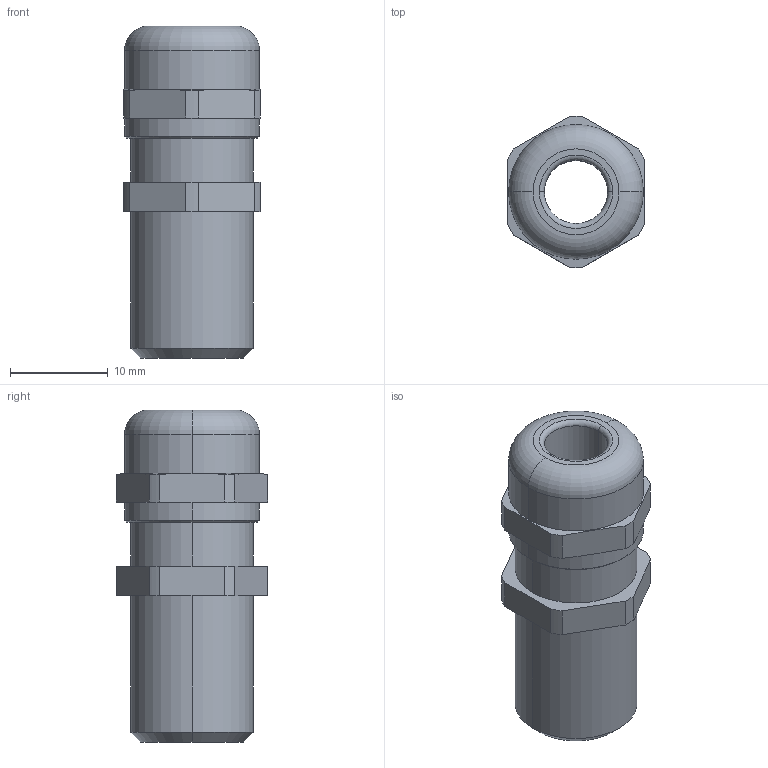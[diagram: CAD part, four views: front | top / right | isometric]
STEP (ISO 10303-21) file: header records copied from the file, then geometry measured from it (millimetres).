
FILE_DESCRIPTION (( 'STEP AP203' ), '1' );
FILE_NAME ('50.007-15MM.STEP', '2005-11-22T08:31:24', ( ' ' ), ( '' ), 'SwSTEP 2.0', 'SolidWorks 2005278', '' );
FILE_SCHEMA (( 'CONFIG_CONTROL_DESIGN' ));
Length unit declared in the file: millimetre
Products named in the file (1): 50.007-15MM
Bounding box: 14 x 15.49 x 34 mm (x, y, z)
Volume: 3471.9 mm3; surface area: 2391.8 mm2
Topology: 1 solids, 1 shells, 88 faces, 228 edges, 148 vertices
Faces by surface type: plane 54, cylinder 22, cone 8, torus 4
Entity records: 2777 total; most frequent: CARTESIAN_POINT 521, ORIENTED_EDGE 456, DIRECTION 446, EDGE_CURVE 228, LINE 156, VECTOR 156, VERTEX_POINT 148, AXIS2_PLACEMENT_3D 145
